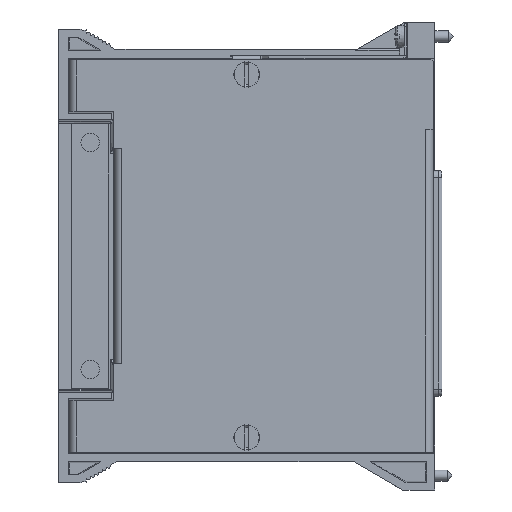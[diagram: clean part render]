
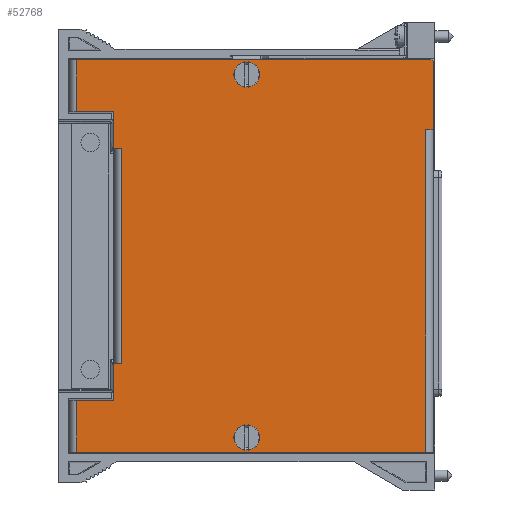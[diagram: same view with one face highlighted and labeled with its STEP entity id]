
A CAD part, top view. The second image highlights one B-rep face of the part: STEP entity #52768.
In plain terms, the highlighted planar face has unit normal (0, 0, 1).
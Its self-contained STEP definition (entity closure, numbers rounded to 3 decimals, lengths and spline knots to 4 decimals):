
#4320=DIRECTION('',(-0.707,0.707,0.));
#4321=VECTOR('',#4320,0.0283);
#4322=CARTESIAN_POINT('',(-0.0125,1.71,0.368));
#4323=LINE('',#4322,#4321);
#4328=DIRECTION('',(0.,1.,0.));
#4329=VECTOR('',#4328,0.3225);
#4330=CARTESIAN_POINT('',(-2.8275,-1.2725,0.368));
#4331=LINE('',#4330,#4329);
#4332=DIRECTION('',(-1.,0.,0.));
#4333=VECTOR('',#4332,0.067);
#4334=CARTESIAN_POINT('',(-2.7605,-0.95,0.368));
#4335=LINE('',#4334,#4333);
#4336=DIRECTION('',(-1.,0.,0.));
#4337=VECTOR('',#4336,0.067);
#4338=CARTESIAN_POINT('',(-2.7605,0.95,0.368));
#4339=LINE('',#4338,#4337);
#4340=DIRECTION('',(0.,1.,0.));
#4341=VECTOR('',#4340,0.3225);
#4342=CARTESIAN_POINT('',(-2.8275,0.95,0.368));
#4343=LINE('',#4342,#4341);
#4344=DIRECTION('',(1.,0.,0.));
#4345=VECTOR('',#4344,0.328);
#4346=CARTESIAN_POINT('',(-3.1555,1.2725,0.368));
#4347=LINE('',#4346,#4345);
#4348=DIRECTION('',(-1.,0.,0.));
#4349=VECTOR('',#4348,3.123);
#4350=CARTESIAN_POINT('',(-0.0325,1.73,0.368));
#4351=LINE('',#4350,#4349);
#4352=DIRECTION('',(0.,1.,0.));
#4353=VECTOR('',#4352,0.595);
#4354=CARTESIAN_POINT('',(-0.0125,1.115,0.368));
#4355=LINE('',#4354,#4353);
#4356=DIRECTION('',(1.,0.,0.));
#4357=VECTOR('',#4356,0.067);
#4358=CARTESIAN_POINT('',(-0.0795,1.115,0.368));
#4359=LINE('',#4358,#4357);
#4360=DIRECTION('',(1.,0.,0.));
#4361=VECTOR('',#4360,3.076);
#4362=CARTESIAN_POINT('',(-3.1555,-1.73,0.368));
#4363=LINE('',#4362,#4361);
#4364=DIRECTION('',(1.,0.,0.));
#4365=VECTOR('',#4364,0.328);
#4366=CARTESIAN_POINT('',(-3.1555,-1.2725,0.368));
#4367=LINE('',#4366,#4365);
#4368=CARTESIAN_POINT('',(-1.6563,-1.6,0.368));
#4369=DIRECTION('',(0.,0.,-1.));
#4370=DIRECTION('',(-0.159,0.987,0.));
#4371=AXIS2_PLACEMENT_3D('',#4368,#4369,#4370);
#4373=CARTESIAN_POINT('',(-1.6563,-1.6,0.368));
#4374=DIRECTION('',(0.,0.,-1.));
#4375=DIRECTION('',(0.159,-0.987,0.));
#4376=AXIS2_PLACEMENT_3D('',#4373,#4374,#4375);
#4378=CARTESIAN_POINT('',(-1.6563,1.6,0.368));
#4379=DIRECTION('',(0.,0.,1.));
#4380=DIRECTION('',(0.159,0.987,0.));
#4381=AXIS2_PLACEMENT_3D('',#4378,#4379,#4380);
#4383=CARTESIAN_POINT('',(-1.6563,1.6,0.368));
#4384=DIRECTION('',(0.,0.,1.));
#4385=DIRECTION('',(-0.159,-0.987,0.));
#4386=AXIS2_PLACEMENT_3D('',#4383,#4384,#4385);
#34363=DIRECTION('',(0.,1.,0.));
#34364=VECTOR('',#34363,0.4575);
#34365=CARTESIAN_POINT('',(-3.1555,1.2725,0.368));
#34366=LINE('',#34365,#34364);
#34468=DIRECTION('',(0.,-1.,0.));
#34469=VECTOR('',#34468,1.9);
#34470=CARTESIAN_POINT('',(-2.7605,0.95,0.368));
#34471=LINE('',#34470,#34469);
#35425=DIRECTION('',(0.,1.,0.));
#35426=VECTOR('',#35425,0.4575);
#35427=CARTESIAN_POINT('',(-3.1555,-1.73,0.368));
#35428=LINE('',#35427,#35426);
#35548=DIRECTION('',(0.,-1.,0.));
#35549=VECTOR('',#35548,2.845);
#35550=CARTESIAN_POINT('',(-0.0795,1.115,0.368));
#35551=LINE('',#35550,#35549);
#35770=CARTESIAN_POINT('',(-1.6738,-1.4914,0.368));
#35772=CARTESIAN_POINT('',(-1.6388,-1.4914,0.368));
#35797=CARTESIAN_POINT('',(-1.6388,-1.7086,0.368));
#35799=CARTESIAN_POINT('',(-1.6738,-1.7086,0.368));
#35823=CARTESIAN_POINT('',(-1.6563,-1.6,0.368));
#35824=DIRECTION('',(0.,0.,-1.));
#35825=DIRECTION('',(0.159,0.987,0.));
#35826=AXIS2_PLACEMENT_3D('',#35823,#35824,#35825);
#35844=CARTESIAN_POINT('',(-1.6563,-1.6,0.368));
#35845=DIRECTION('',(0.,0.,-1.));
#35846=DIRECTION('',(-0.159,-0.987,0.));
#35847=AXIS2_PLACEMENT_3D('',#35844,#35845,#35846);
#35863=CARTESIAN_POINT('',(-1.6738,1.7086,0.368));
#35875=CARTESIAN_POINT('',(-1.6388,1.7086,0.368));
#35902=CARTESIAN_POINT('',(-1.6563,1.6,0.368));
#35903=DIRECTION('',(0.,0.,-1.));
#35904=DIRECTION('',(0.159,0.987,0.));
#35905=AXIS2_PLACEMENT_3D('',#35902,#35903,#35904);
#35916=CARTESIAN_POINT('',(-1.6388,1.4914,0.368));
#35928=CARTESIAN_POINT('',(-1.6738,1.4914,0.368));
#35942=CARTESIAN_POINT('',(-1.6563,1.6,0.368));
#35943=DIRECTION('',(0.,0.,-1.));
#35944=DIRECTION('',(-0.159,-0.987,0.));
#35945=AXIS2_PLACEMENT_3D('',#35942,#35943,#35944);
#49011=CARTESIAN_POINT('',(-3.1555,1.73,0.368));
#49013=VERTEX_POINT('',#49011);
#49015=CARTESIAN_POINT('',(-3.1555,-1.73,0.368));
#49017=VERTEX_POINT('',#49015);
#49026=CARTESIAN_POINT('',(-3.1555,-1.2725,0.368));
#49027=CARTESIAN_POINT('',(-2.8275,-1.2725,0.368));
#49028=VERTEX_POINT('',#49026);
#49029=VERTEX_POINT('',#49027);
#49030=CARTESIAN_POINT('',(-3.1555,1.2725,0.368));
#49031=CARTESIAN_POINT('',(-2.8275,1.2725,0.368));
#49032=VERTEX_POINT('',#49030);
#49033=VERTEX_POINT('',#49031);
#49070=CARTESIAN_POINT('',(-0.0795,1.115,0.368));
#49071=CARTESIAN_POINT('',(-0.0125,1.115,0.368));
#49072=VERTEX_POINT('',#49070);
#49073=VERTEX_POINT('',#49071);
#49082=CARTESIAN_POINT('',(-0.0795,-1.73,0.368));
#49083=VERTEX_POINT('',#49082);
#49090=CARTESIAN_POINT('',(-2.7605,0.95,0.368));
#49091=CARTESIAN_POINT('',(-2.8275,0.95,0.368));
#49092=VERTEX_POINT('',#49090);
#49093=VERTEX_POINT('',#49091);
#49098=CARTESIAN_POINT('',(-2.7605,-0.95,0.368));
#49099=CARTESIAN_POINT('',(-2.8275,-0.95,0.368));
#49100=VERTEX_POINT('',#49098);
#49101=VERTEX_POINT('',#49099);
#49174=CARTESIAN_POINT('',(-0.0125,1.71,0.368));
#49175=CARTESIAN_POINT('',(-0.0325,1.73,0.368));
#49176=VERTEX_POINT('',#49174);
#49177=VERTEX_POINT('',#49175);
#49284=VERTEX_POINT('',#35797);
#49285=VERTEX_POINT('',#35799);
#49290=VERTEX_POINT('',#35772);
#49291=VERTEX_POINT('',#35770);
#49328=VERTEX_POINT('',#35875);
#49329=VERTEX_POINT('',#35863);
#49334=VERTEX_POINT('',#35916);
#49335=VERTEX_POINT('',#35928);
#52714=CARTESIAN_POINT('',(-3.2225,0.,0.368));
#52715=DIRECTION('',(0.,0.,1.));
#52716=DIRECTION('',(1.,0.,0.));
#52717=AXIS2_PLACEMENT_3D('',#52714,#52715,#52716);
#52718=PLANE('',#52717);
#52720=ORIENTED_EDGE('',*,*,#52719,.T.);
#52722=ORIENTED_EDGE('',*,*,#52721,.F.);
#52724=ORIENTED_EDGE('',*,*,#52723,.F.);
#52726=ORIENTED_EDGE('',*,*,#52725,.T.);
#52728=ORIENTED_EDGE('',*,*,#52727,.T.);
#52730=ORIENTED_EDGE('',*,*,#52729,.F.);
#52732=ORIENTED_EDGE('',*,*,#52731,.T.);
#52733=ORIENTED_EDGE('',*,*,#52685,.F.);
#52734=ORIENTED_EDGE('',*,*,#52708,.F.);
#52735=ORIENTED_EDGE('',*,*,#52652,.F.);
#52737=ORIENTED_EDGE('',*,*,#52736,.F.);
#52739=ORIENTED_EDGE('',*,*,#52738,.T.);
#52741=ORIENTED_EDGE('',*,*,#52740,.F.);
#52743=ORIENTED_EDGE('',*,*,#52742,.T.);
#52745=ORIENTED_EDGE('',*,*,#52744,.T.);
#52746=EDGE_LOOP('',(#52720,#52722,#52724,#52726,#52728,#52730,#52732,#52733,
#52734,#52735,#52737,#52739,#52741,#52743,#52745));
#52747=FACE_OUTER_BOUND('',#52746,.F.);
#52749=ORIENTED_EDGE('',*,*,#52748,.F.);
#52751=ORIENTED_EDGE('',*,*,#52750,.F.);
#52753=ORIENTED_EDGE('',*,*,#52752,.F.);
#52755=ORIENTED_EDGE('',*,*,#52754,.F.);
#52756=EDGE_LOOP('',(#52749,#52751,#52753,#52755));
#52757=FACE_BOUND('',#52756,.F.);
#52759=ORIENTED_EDGE('',*,*,#52758,.T.);
#52761=ORIENTED_EDGE('',*,*,#52760,.F.);
#52763=ORIENTED_EDGE('',*,*,#52762,.T.);
#52765=ORIENTED_EDGE('',*,*,#52764,.F.);
#52766=EDGE_LOOP('',(#52759,#52761,#52763,#52765));
#52767=FACE_BOUND('',#52766,.F.);
#52768=ADVANCED_FACE('',(#52747,#52757,#52767),#52718,.T.);
#4372=CIRCLE('',#4371,0.11);
#4377=CIRCLE('',#4376,0.11);
#4382=CIRCLE('',#4381,0.11);
#4387=CIRCLE('',#4386,0.11);
#35827=CIRCLE('',#35826,0.11);
#35848=CIRCLE('',#35847,0.11);
#35906=CIRCLE('',#35905,0.11);
#35946=CIRCLE('',#35945,0.11);
#52652=EDGE_CURVE('',#49073,#49176,#4355,.T.);
#52685=EDGE_CURVE('',#49177,#49013,#4351,.T.);
#52708=EDGE_CURVE('',#49176,#49177,#4323,.T.);
#52719=EDGE_CURVE('',#49029,#49101,#4331,.T.);
#52721=EDGE_CURVE('',#49100,#49101,#4335,.T.);
#52723=EDGE_CURVE('',#49092,#49100,#34471,.T.);
#52725=EDGE_CURVE('',#49092,#49093,#4339,.T.);
#52727=EDGE_CURVE('',#49093,#49033,#4343,.T.);
#52729=EDGE_CURVE('',#49032,#49033,#4347,.T.);
#52731=EDGE_CURVE('',#49032,#49013,#34366,.T.);
#52736=EDGE_CURVE('',#49072,#49073,#4359,.T.);
#52738=EDGE_CURVE('',#49072,#49083,#35551,.T.);
#52740=EDGE_CURVE('',#49017,#49083,#4363,.T.);
#52742=EDGE_CURVE('',#49017,#49028,#35428,.T.);
#52744=EDGE_CURVE('',#49028,#49029,#4367,.T.);
#52748=EDGE_CURVE('',#49291,#49290,#4372,.T.);
#52750=EDGE_CURVE('',#49285,#49291,#35848,.T.);
#52752=EDGE_CURVE('',#49284,#49285,#4377,.T.);
#52754=EDGE_CURVE('',#49290,#49284,#35827,.T.);
#52758=EDGE_CURVE('',#49328,#49329,#4382,.T.);
#52760=EDGE_CURVE('',#49335,#49329,#35946,.T.);
#52762=EDGE_CURVE('',#49335,#49334,#4387,.T.);
#52764=EDGE_CURVE('',#49328,#49334,#35906,.T.);
